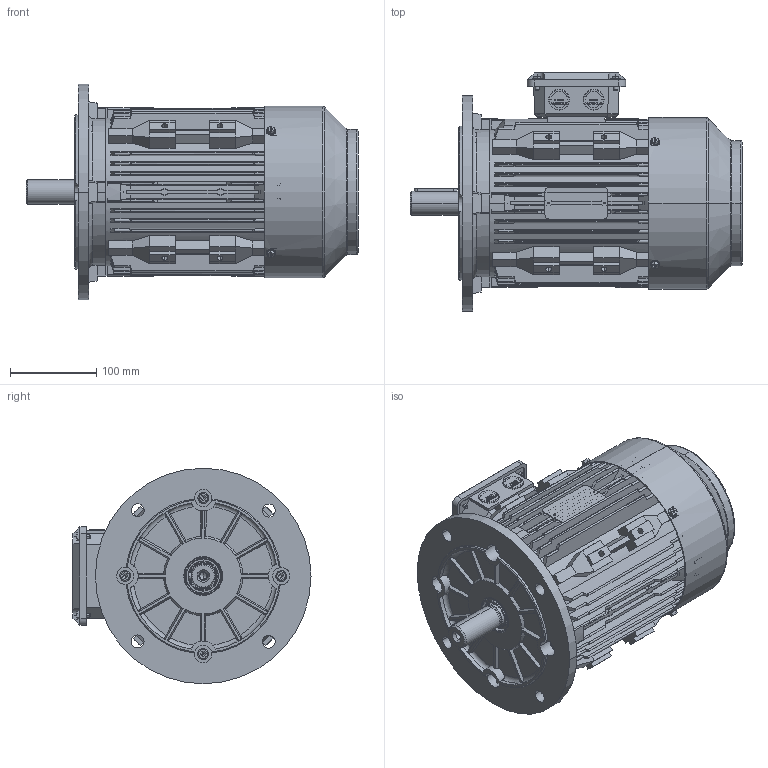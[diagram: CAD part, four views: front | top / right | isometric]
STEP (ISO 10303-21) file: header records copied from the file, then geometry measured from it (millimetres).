
FILE_DESCRIPTION (( 'STEP AP214' ), '1' );
FILE_NAME ('BCT4075.10I805.11.step', '2020-04-23T15:28:06', ( '' ), ( '' ), 'SwSTEP 2.0', 'SolidWorks 2019', '' );
FILE_SCHEMA (( 'AUTOMOTIVE_DESIGN' ));
Length unit declared in the file: millimetre
Products named in the file (1): BCT4075.10I805.11
Bounding box: 385 x 276 x 250 mm (x, y, z)
Volume: 3294135.3 mm3; surface area: 1076972.6 mm2
Topology: 32 solids, 32 shells, 2773 faces, 7321 edges, 4727 vertices
Faces by surface type: plane 1545, cylinder 687, cone 318, torus 134, bspline 89
Entity records: 104582 total; most frequent: CARTESIAN_POINT 36556, ORIENTED_EDGE 14546, DIRECTION 13195, EDGE_CURVE 7273, VERTEX_POINT 4727, AXIS2_PLACEMENT_3D 4460, LINE 4275, VECTOR 4275
